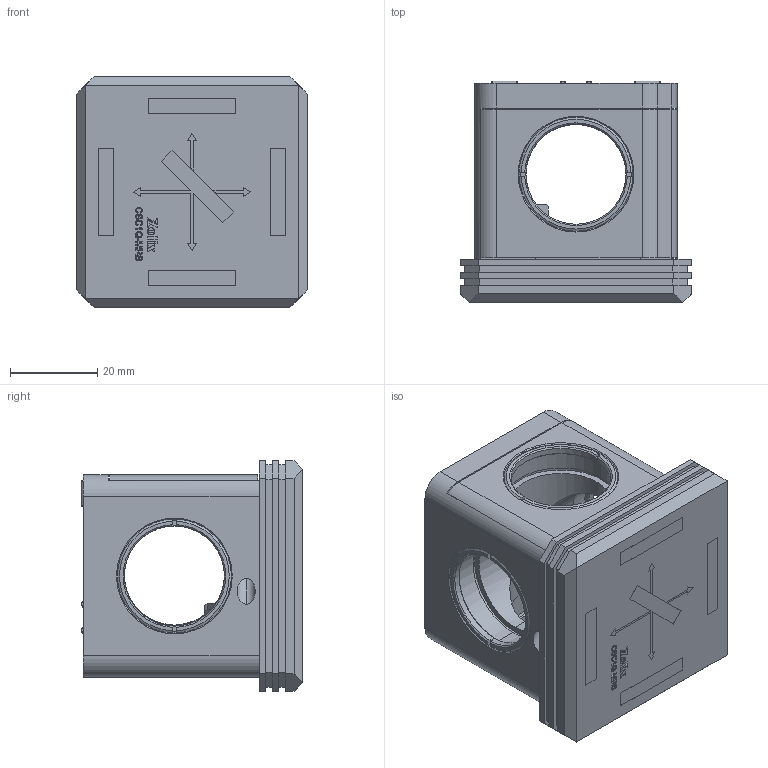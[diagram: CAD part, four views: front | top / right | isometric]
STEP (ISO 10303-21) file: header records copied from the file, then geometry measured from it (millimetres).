
FILE_DESCRIPTION (( 'STEP AP203' ), '1' );
FILE_NAME ('CSC1Q-MRS-A.STEP', '2024-03-28T03:20:35', ( '' ), ( '' ), 'SwSTEP 2.0', 'SolidWorks 2021', '' );
FILE_SCHEMA (( 'CONFIG_CONTROL_DESIGN' ));
Length unit declared in the file: millimetre
Products named in the file (1): CSC1Q-MRS-A
Bounding box: 53 x 50.9 x 53 mm (x, y, z)
Surface area: 24982 mm2 (no closed solid volume)
Topology: 0 solids, 29 shells, 430 faces, 1724 edges, 1316 vertices
Faces by surface type: plane 253, cylinder 85, cone 72, bspline 10, torus 10
Entity records: 21101 total; most frequent: CARTESIAN_POINT 7096, DIRECTION 2747, ORIENTED_EDGE 2609, EDGE_CURVE 1718, VERTEX_POINT 1316, VECTOR 1125, LINE 1125, AXIS2_PLACEMENT_3D 811
